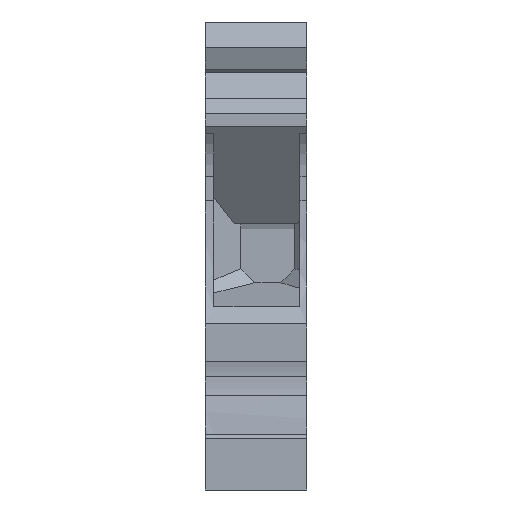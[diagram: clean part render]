
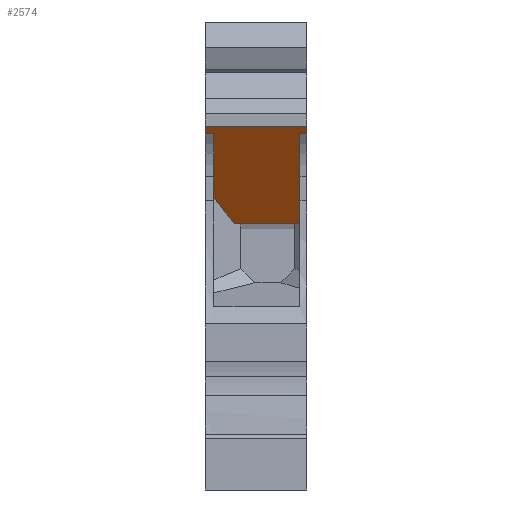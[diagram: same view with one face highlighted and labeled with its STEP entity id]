
A CAD part, front view. The second image highlights one B-rep face of the part: STEP entity #2574.
In plain terms, the highlighted planar face has unit normal (0, -0.793, -0.609).
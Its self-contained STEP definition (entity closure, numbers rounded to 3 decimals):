
#1076=CARTESIAN_POINT('',(0.,2.804,35.639));
#1077=VERTEX_POINT('',#1076);
#1085=CARTESIAN_POINT('',(0.,2.2,36.426));
#1086=VERTEX_POINT('',#1085);
#1087=CARTESIAN_POINT('',(0.,2.804,35.639));
#1088=DIRECTION('',(0.,-0.609,0.793));
#1089=VECTOR('',#1088,0.992);
#1090=LINE('',#1087,#1089);
#1091=EDGE_CURVE('',#1077,#1086,#1090,.T.);
#1592=CARTESIAN_POINT('',(10.15,2.2,36.426));
#1593=VERTEX_POINT('',#1592);
#1600=CARTESIAN_POINT('',(10.15,2.804,35.639));
#1601=VERTEX_POINT('',#1600);
#1602=CARTESIAN_POINT('',(10.15,2.2,36.426));
#1603=DIRECTION('',(-0.,0.609,-0.793));
#1604=VECTOR('',#1603,0.992);
#1605=LINE('',#1602,#1604);
#1606=EDGE_CURVE('',#1593,#1601,#1605,.T.);
#2507=CARTESIAN_POINT('',(10.15,7.461,29.568));
#2508=DIRECTION('',(-0.,-0.793,-0.609));
#2509=DIRECTION('',(0.,-0.609,0.793));
#2510=AXIS2_PLACEMENT_3D('',#2507,#2508,#2509);
#2511=PLANE('',#2510);
#2512=CARTESIAN_POINT('',(9.45,9.45,26.976));
#2513=VERTEX_POINT('',#2512);
#2514=CARTESIAN_POINT('',(9.213,9.687,26.666));
#2515=VERTEX_POINT('',#2514);
#2516=CARTESIAN_POINT('',(9.45,9.45,26.976));
#2517=CARTESIAN_POINT('',(9.213,9.687,26.666));
#2518=B_SPLINE_CURVE_WITH_KNOTS('',1,(#2516,#2517),.UNSPECIFIED.,.F.,.F.,(2,2),(0.,0.457),.UNSPECIFIED.);
#2519=EDGE_CURVE('',#2513,#2515,#2518,.T.);
#2520=ORIENTED_EDGE('',*,*,#2519,.F.);
#2521=CARTESIAN_POINT('',(9.45,2.804,35.639));
#2522=VERTEX_POINT('',#2521);
#2523=CARTESIAN_POINT('',(9.45,9.45,26.976));
#2524=DIRECTION('',(0.,-0.609,0.793));
#2525=VECTOR('',#2524,10.919);
#2526=LINE('',#2523,#2525);
#2527=EDGE_CURVE('',#2513,#2522,#2526,.T.);
#2528=ORIENTED_EDGE('',*,*,#2527,.T.);
#2529=CARTESIAN_POINT('',(9.45,2.804,35.639));
#2530=DIRECTION('',(1.,-0.,-0.));
#2531=VECTOR('',#2530,0.7);
#2532=LINE('',#2529,#2531);
#2533=EDGE_CURVE('',#2522,#1601,#2532,.T.);
#2534=ORIENTED_EDGE('',*,*,#2533,.T.);
#2535=ORIENTED_EDGE('',*,*,#1606,.F.);
#2536=CARTESIAN_POINT('',(-0.,2.2,36.426));
#2537=DIRECTION('',(1.,-0.,-0.));
#2538=VECTOR('',#2537,10.15);
#2539=LINE('',#2536,#2538);
#2540=EDGE_CURVE('',#1086,#1593,#2539,.T.);
#2541=ORIENTED_EDGE('',*,*,#2540,.F.);
#2542=ORIENTED_EDGE('',*,*,#1091,.F.);
#2543=CARTESIAN_POINT('',(0.85,2.804,35.639));
#2544=VERTEX_POINT('',#2543);
#2545=CARTESIAN_POINT('',(0.,2.804,35.639));
#2546=DIRECTION('',(1.,-0.,-0.));
#2547=VECTOR('',#2546,0.85);
#2548=LINE('',#2545,#2547);
#2549=EDGE_CURVE('',#1077,#2544,#2548,.T.);
#2550=ORIENTED_EDGE('',*,*,#2549,.T.);
#2551=CARTESIAN_POINT('',(0.85,7.65,29.322));
#2552=VERTEX_POINT('',#2551);
#2553=CARTESIAN_POINT('',(0.85,2.804,35.639));
#2554=DIRECTION('',(-0.,0.609,-0.793));
#2555=VECTOR('',#2554,7.962);
#2556=LINE('',#2553,#2555);
#2557=EDGE_CURVE('',#2544,#2552,#2556,.T.);
#2558=ORIENTED_EDGE('',*,*,#2557,.T.);
#2559=CARTESIAN_POINT('',(2.887,9.687,26.666));
#2560=VERTEX_POINT('',#2559);
#2561=CARTESIAN_POINT('',(0.85,7.65,29.322));
#2562=CARTESIAN_POINT('',(2.887,9.687,26.666));
#2563=B_SPLINE_CURVE_WITH_KNOTS('',1,(#2561,#2562),.UNSPECIFIED.,.F.,.F.,(2,2),(0.,3.919),.UNSPECIFIED.);
#2564=EDGE_CURVE('',#2552,#2560,#2563,.T.);
#2565=ORIENTED_EDGE('',*,*,#2564,.T.);
#2566=CARTESIAN_POINT('',(9.213,9.687,26.666));
#2567=DIRECTION('',(-1.,0.,0.));
#2568=VECTOR('',#2567,6.325);
#2569=LINE('',#2566,#2568);
#2570=EDGE_CURVE('',#2515,#2560,#2569,.T.);
#2571=ORIENTED_EDGE('',*,*,#2570,.F.);
#2572=EDGE_LOOP('',(#2520,#2528,#2534,#2535,#2541,#2542,#2550,#2558,#2565,#2571));
#2573=FACE_BOUND('',#2572,.T.);
#2574=ADVANCED_FACE('',(#2573),#2511,.T.);
